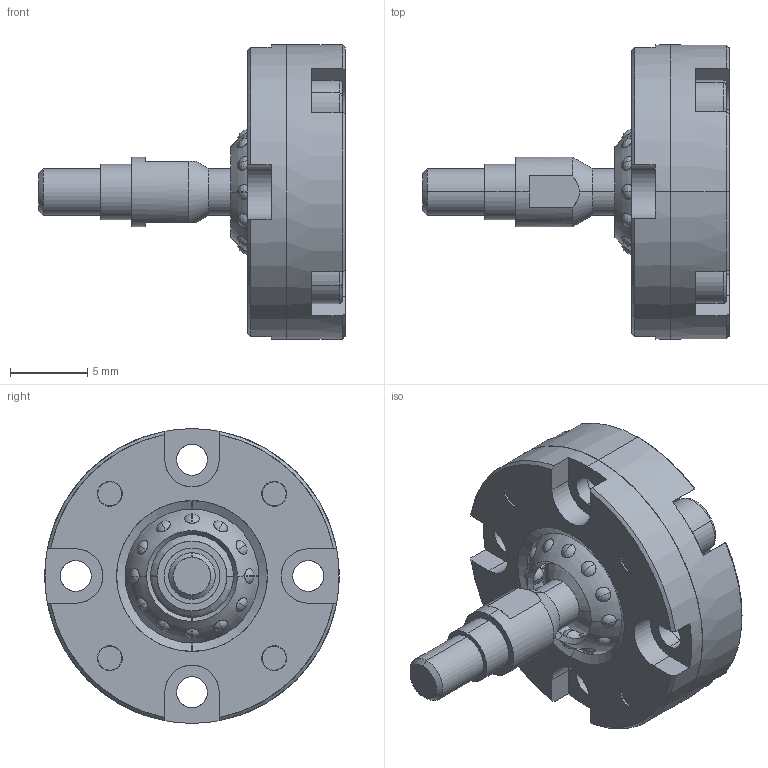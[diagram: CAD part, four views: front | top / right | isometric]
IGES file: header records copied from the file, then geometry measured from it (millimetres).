
Start section: SolidWorks IGES file using analytic representation for surfaces
Global section: file name: C:\Users\render\Documents\CAD Files\SRJ\SRJ004C\SR JOINT - SRJ004C.IGS; native system: SolidWorks 2009; preprocessor: SolidWorks 2009; author: render; date: 100601.152729; units: millimetre
Bounding box: 19.8 x 19 x 19 mm (x, y, z)
Surface area: 2312.6 mm2 (no closed solid volume)
Topology: 0 solids, 0 shells, 323 faces, 5799 edges, 5725 vertices
Faces by surface type: revolution 228, bspline 95
